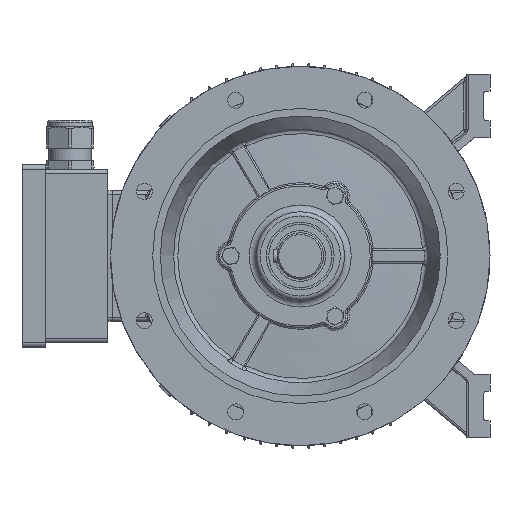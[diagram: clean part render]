
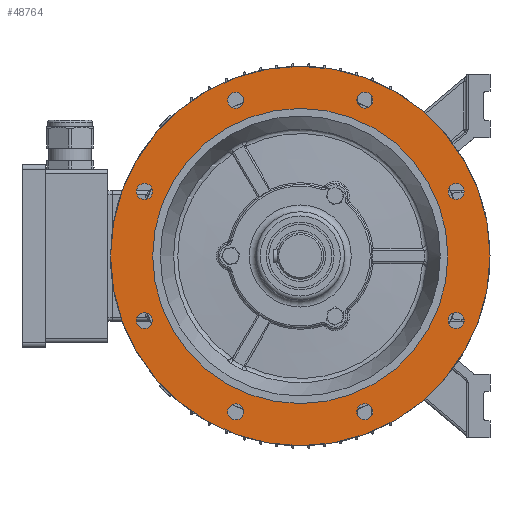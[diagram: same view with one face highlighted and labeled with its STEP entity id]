
A CAD part, left-side view. The second image highlights one B-rep face of the part: STEP entity #48764.
In plain terms, the highlighted planar face has unit normal (-1, 0, 0).
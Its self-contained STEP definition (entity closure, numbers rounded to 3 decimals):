
#10540=FACE_BOUND('',#16445,.T.);
#10541=FACE_BOUND('',#16446,.T.);
#10542=FACE_BOUND('',#16447,.T.);
#10543=FACE_BOUND('',#16448,.T.);
#10544=FACE_BOUND('',#16449,.T.);
#10545=FACE_BOUND('',#16450,.T.);
#10546=FACE_BOUND('',#16451,.T.);
#10547=FACE_BOUND('',#16452,.T.);
#10548=FACE_BOUND('',#16453,.T.);
#13394=FACE_OUTER_BOUND('',#16444,.T.);
#16444=EDGE_LOOP('',(#40291));
#16445=EDGE_LOOP('',(#40292));
#16446=EDGE_LOOP('',(#40293));
#16447=EDGE_LOOP('',(#40294));
#16448=EDGE_LOOP('',(#40295));
#16449=EDGE_LOOP('',(#40296));
#16450=EDGE_LOOP('',(#40297));
#16451=EDGE_LOOP('',(#40298));
#16452=EDGE_LOOP('',(#40299));
#16453=EDGE_LOOP('',(#40300));
#17742=CIRCLE('',#52276,9.5);
#17743=CIRCLE('',#52278,9.5);
#17744=CIRCLE('',#52280,9.5);
#17745=CIRCLE('',#52282,9.5);
#17746=CIRCLE('',#52284,9.5);
#17747=CIRCLE('',#52286,9.5);
#17748=CIRCLE('',#52288,9.5);
#17749=CIRCLE('',#52290,9.5);
#17750=CIRCLE('',#52292,225.);
#17751=CIRCLE('',#52293,175.);
#21873=VERTEX_POINT('',#90122);
#21874=VERTEX_POINT('',#90125);
#21875=VERTEX_POINT('',#90128);
#21876=VERTEX_POINT('',#90131);
#21877=VERTEX_POINT('',#90134);
#21878=VERTEX_POINT('',#90137);
#21879=VERTEX_POINT('',#90140);
#21880=VERTEX_POINT('',#90143);
#21881=VERTEX_POINT('',#90146);
#21882=VERTEX_POINT('',#90148);
#28138=EDGE_CURVE('',#21873,#21873,#17742,.T.);
#28139=EDGE_CURVE('',#21874,#21874,#17743,.T.);
#28140=EDGE_CURVE('',#21875,#21875,#17744,.T.);
#28141=EDGE_CURVE('',#21876,#21876,#17745,.T.);
#28142=EDGE_CURVE('',#21877,#21877,#17746,.T.);
#28143=EDGE_CURVE('',#21878,#21878,#17747,.T.);
#28144=EDGE_CURVE('',#21879,#21879,#17748,.T.);
#28145=EDGE_CURVE('',#21880,#21880,#17749,.T.);
#28146=EDGE_CURVE('',#21881,#21881,#17750,.T.);
#28147=EDGE_CURVE('',#21882,#21882,#17751,.T.);
#40291=ORIENTED_EDGE('',*,*,#28146,.F.);
#40292=ORIENTED_EDGE('',*,*,#28138,.T.);
#40293=ORIENTED_EDGE('',*,*,#28139,.T.);
#40294=ORIENTED_EDGE('',*,*,#28140,.T.);
#40295=ORIENTED_EDGE('',*,*,#28141,.T.);
#40296=ORIENTED_EDGE('',*,*,#28142,.T.);
#40297=ORIENTED_EDGE('',*,*,#28143,.T.);
#40298=ORIENTED_EDGE('',*,*,#28144,.T.);
#40299=ORIENTED_EDGE('',*,*,#28145,.T.);
#40300=ORIENTED_EDGE('',*,*,#28147,.T.);
#43594=PLANE('',#52291);
#48764=ADVANCED_FACE('',(#13394,#10540,#10541,#10542,#10543,#10544,#10545,
#10546,#10547,#10548),#43594,.T.);
#52276=AXIS2_PLACEMENT_3D('',#90123,#63156,#63157);
#52278=AXIS2_PLACEMENT_3D('',#90126,#63160,#63161);
#52280=AXIS2_PLACEMENT_3D('',#90129,#63164,#63165);
#52282=AXIS2_PLACEMENT_3D('',#90132,#63168,#63169);
#52284=AXIS2_PLACEMENT_3D('',#90135,#63172,#63173);
#52286=AXIS2_PLACEMENT_3D('',#90138,#63176,#63177);
#52288=AXIS2_PLACEMENT_3D('',#90141,#63180,#63181);
#52290=AXIS2_PLACEMENT_3D('',#90144,#63184,#63185);
#52291=AXIS2_PLACEMENT_3D('',#90145,#63186,#63187);
#52292=AXIS2_PLACEMENT_3D('',#90147,#63188,#63189);
#52293=AXIS2_PLACEMENT_3D('',#90149,#63190,#63191);
#63156=DIRECTION('center_axis',(1.,0.,0.));
#63157=DIRECTION('ref_axis',(0.,0.707,0.707));
#63160=DIRECTION('center_axis',(1.,0.,0.));
#63161=DIRECTION('ref_axis',(0.,1.,0.));
#63164=DIRECTION('center_axis',(1.,0.,0.));
#63165=DIRECTION('ref_axis',(0.,0.707,-0.707));
#63168=DIRECTION('center_axis',(1.,0.,0.));
#63169=DIRECTION('ref_axis',(0.,0.,-1.));
#63172=DIRECTION('center_axis',(1.,0.,0.));
#63173=DIRECTION('ref_axis',(0.,-0.707,-0.707));
#63176=DIRECTION('center_axis',(1.,0.,0.));
#63177=DIRECTION('ref_axis',(0.,-1.,0.));
#63180=DIRECTION('center_axis',(1.,0.,0.));
#63181=DIRECTION('ref_axis',(0.,-0.707,0.707));
#63184=DIRECTION('center_axis',(1.,0.,0.));
#63185=DIRECTION('ref_axis',(0.,0.,1.));
#63186=DIRECTION('center_axis',(-1.,0.,0.));
#63187=DIRECTION('ref_axis',(0.,0.,1.));
#63188=DIRECTION('center_axis',(1.,0.,0.));
#63189=DIRECTION('ref_axis',(0.,1.,0.));
#63190=DIRECTION('center_axis',(1.,0.,0.));
#63191=DIRECTION('ref_axis',(0.,1.,0.));
#90122=CARTESIAN_POINT('',(110.,69.819,-191.493));
#90123=CARTESIAN_POINT('Origin',(110.,76.537,-184.776));
#90125=CARTESIAN_POINT('',(110.,-86.037,-184.776));
#90126=CARTESIAN_POINT('Origin',(110.,-76.537,-184.776));
#90128=CARTESIAN_POINT('',(110.,-191.493,-69.819));
#90129=CARTESIAN_POINT('Origin',(110.,-184.776,-76.537));
#90131=CARTESIAN_POINT('',(110.,-184.776,86.037));
#90132=CARTESIAN_POINT('Origin',(110.,-184.776,76.537));
#90134=CARTESIAN_POINT('',(110.,-69.819,191.493));
#90135=CARTESIAN_POINT('Origin',(110.,-76.537,184.776));
#90137=CARTESIAN_POINT('',(110.,86.037,184.776));
#90138=CARTESIAN_POINT('Origin',(110.,76.537,184.776));
#90140=CARTESIAN_POINT('',(110.,191.493,69.819));
#90141=CARTESIAN_POINT('Origin',(110.,184.776,76.537));
#90143=CARTESIAN_POINT('',(110.,184.776,-86.037));
#90144=CARTESIAN_POINT('Origin',(110.,184.776,-76.537));
#90145=CARTESIAN_POINT('Origin',(110.,195.5,0.));
#90146=CARTESIAN_POINT('',(110.,225.,0.));
#90147=CARTESIAN_POINT('Origin',(110.,0.,0.));
#90148=CARTESIAN_POINT('',(110.,175.,0.));
#90149=CARTESIAN_POINT('Origin',(110.,0.,0.));
